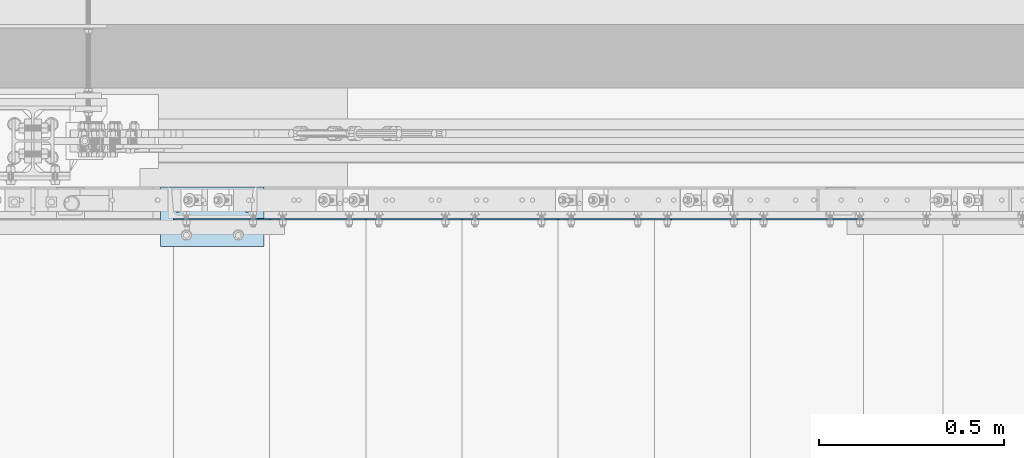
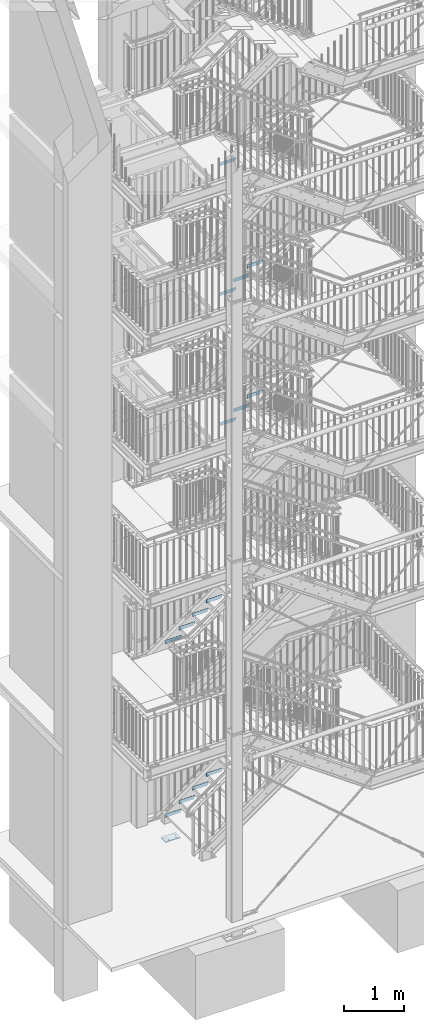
# One storey, part 195 of 831: 16 plates, 34 openings.
"""IFC2X3 building model written with IfcOpenShell, lengths in millimetres."""

from ifc_helpers import new_model, entity, si_unit, converted_unit, point, frame, frame_2d, origin, origin_with_axes, origin_2d_with_axis, place, context, project, spatial, polyline, circle_curve, line_curve, trimmed, segment, composite_curve, circle, outline, extrude, material, layer, layer_set, element, save


model = new_model("IFC2X3")

# Units and contexts
model_context = context("Model", 3, precision=1e-09, world=origin_with_axes())
ifc_project = project(units=[si_unit("LENGTHUNIT", "METRE", prefix="MILLI"), si_unit("AREAUNIT", "SQUARE_METRE"), si_unit("VOLUMEUNIT", "CUBIC_METRE"), converted_unit("PLANEANGLEUNIT", "DEGREE", entity("IfcPlaneAngleMeasure", 0.01745329), si_unit("PLANEANGLEUNIT", "RADIAN"), dimensions=[0, 0, 0, 0, 0, 0, 0])], contexts=[model_context])

# Site, building, storey
site_placement = place(None, origin_with_axes())
site = spatial("IfcSite", under=ifc_project, at=site_placement, Name="Site", CompositionType="ELEMENT")
building_placement = place(site_placement, origin_with_axes())
building = spatial("IfcBuilding", under=site, at=building_placement, Name="Struktur 1", CompositionType="ELEMENT")
storey_placement = place(building_placement, origin_with_axes())
storey = spatial("IfcBuildingStorey", under=building, at=storey_placement, Name="Default Storey", CompositionType="ELEMENT", Elevation=0.0)

# Plate, openings
ifc_material = material(Name="S235JR")
ifc_layer_1 = layer(ifc_material, 3.0)
ifc_layer_set_1 = layer_set([ifc_layer_1], Name="S235JR")
plate_1_placement = place(None, frame((6276.713402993, 7306.736971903, 10742.571429), z_axis=(0.0, -1.0, 0.0), x_axis=(0.0, 0.0, -1.0)))
plate_1 = element("IfcPlate", 1, at=plate_1_placement, inside=storey, material=ifc_layer_set_1, Name="Grate_Step#23", ObjectType="Grate_Step#23", context=model_context, shape_type="SweptSolid", body=[
    extrude(outline(polyline([(0.0, 0.0), (70.0, 0.0), (70.0, 275.0), (40.0, 305.0), (0.0, 305.0), (0.0, 0.0)])), origin_with_axes(), (0.0, 0.0, 1.0), 3.0),
])
opening_1_placement = place(plate_1_placement, frame((55.0, 215.0, 3.5), z_axis=(0.0, 0.0, -1.0), x_axis=(0.0, 1.0, 0.0)))
element("IfcOpeningElement", 2, at=opening_1_placement, cuts=plate_1, ObjectType="Opening", context=model_context, shape_type="SweptSolid", body=[
    extrude(outline(composite_curve([segment(trimmed(line_curve((-9.5, -7.001), (1.0, 0.0), 19.0), [point((-9.5, -7.001))], [point((9.5, -7.001))], True, "CARTESIAN"), True, "CONTINUOUS"), segment(trimmed(circle_curve(frame_2d((9.5, 0.0), x_axis=(1.0, 0.0)), 7.001), [point((9.5, -7.001))], [point((9.5, 7.001))], True, "CARTESIAN"), True, "CONTINUOUS"), segment(trimmed(line_curve((9.5, 7.001), (-1.0, 0.0), 19.0), [point((9.5, 7.001))], [point((-9.5, 7.001))], True, "CARTESIAN"), True, "CONTINUOUS"), segment(trimmed(circle_curve(frame_2d((-9.5, 0.0), x_axis=(1.0, 0.0)), 7.001), [point((-9.5, 7.001))], [point((-9.5, -7.001))], True, "CARTESIAN"), True, "CONTINUOUS")], self_intersect=False)), origin(), (0.0, 0.0, 1.0), 4.0),
])
opening_2_placement = place(plate_1_placement, frame((55.0, 35.0, 3.5), z_axis=(0.0, 0.0, -1.0), x_axis=(0.0, 1.0, 0.0)))
element("IfcOpeningElement", 3, at=opening_2_placement, cuts=plate_1, ObjectType="Opening", context=model_context, shape_type="SweptSolid", body=[
    extrude(circle(Radius=7.001, at=origin_2d_with_axis()), origin(), (0.0, 0.0, 1.0), 4.0),
])

plate_2_placement = place(None, frame((6536.713402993, 7306.736971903, 10930.2142861), z_axis=(0.0, -1.0, 0.0), x_axis=(0.0, 0.0, -1.0)))
plate_2 = element("IfcPlate", 4, at=plate_2_placement, inside=storey, material=ifc_layer_set_1, Name="Grate_Step#30", ObjectType="Grate_Step#30", context=model_context, shape_type="SweptSolid", body=[
    extrude(outline(polyline([(0.0, 0.0), (70.0, 0.0), (70.0, 275.0), (40.0, 305.0), (0.0, 305.0), (0.0, 0.0)])), origin_with_axes(), (0.0, 0.0, 1.0), 3.0),
])
opening_3_placement = place(plate_2_placement, frame((55.0, 35.0, 3.5), z_axis=(0.0, 0.0, -1.0), x_axis=(0.0, 1.0, 0.0)))
element("IfcOpeningElement", 5, at=opening_3_placement, cuts=plate_2, ObjectType="Opening", context=model_context, shape_type="SweptSolid", body=[
    extrude(circle(Radius=7.001, at=origin_2d_with_axis()), origin(), (0.0, 0.0, 1.0), 4.0),
])
opening_4_placement = place(plate_2_placement, frame((55.0, 215.0, 3.5), z_axis=(0.0, 0.0, -1.0), x_axis=(0.0, 1.0, 0.0)))
element("IfcOpeningElement", 6, at=opening_4_placement, cuts=plate_2, ObjectType="Opening", context=model_context, shape_type="SweptSolid", body=[
    extrude(outline(composite_curve([segment(trimmed(line_curve((-9.5, -7.001), (1.0, 0.0), 19.0), [point((-9.5, -7.001))], [point((9.5, -7.001))], True, "CARTESIAN"), True, "CONTINUOUS"), segment(trimmed(circle_curve(frame_2d((9.5, 0.0), x_axis=(1.0, 0.0)), 7.001), [point((9.5, -7.001))], [point((9.5, 7.001))], True, "CARTESIAN"), True, "CONTINUOUS"), segment(trimmed(line_curve((9.5, 7.001), (-1.0, 0.0), 19.0), [point((9.5, 7.001))], [point((-9.5, 7.001))], True, "CARTESIAN"), True, "CONTINUOUS"), segment(trimmed(circle_curve(frame_2d((-9.5, 0.0), x_axis=(1.0, 0.0)), 7.001), [point((-9.5, 7.001))], [point((-9.5, -7.001))], True, "CARTESIAN"), True, "CONTINUOUS")], self_intersect=False)), origin(), (0.0, 0.0, 1.0), 4.0),
])

plate_3_placement = place(None, frame((6796.713402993, 7306.736971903, 11117.8571432), z_axis=(0.0, -1.0, 0.0), x_axis=(0.0, 0.0, -1.0)))
plate_3 = element("IfcPlate", 7, at=plate_3_placement, inside=storey, material=ifc_layer_set_1, Name="Grate_Step#37", ObjectType="Grate_Step#37", context=model_context, shape_type="SweptSolid", body=[
    extrude(outline(polyline([(0.0, 0.0), (70.0, 0.0), (70.0, 275.0), (40.0, 305.0), (0.0, 305.0), (0.0, 0.0)])), origin_with_axes(), (0.0, 0.0, 1.0), 3.0),
])
opening_5_placement = place(plate_3_placement, frame((55.0, 215.0, 3.5), z_axis=(0.0, 0.0, -1.0), x_axis=(0.0, 1.0, 0.0)))
element("IfcOpeningElement", 8, at=opening_5_placement, cuts=plate_3, ObjectType="Opening", context=model_context, shape_type="SweptSolid", body=[
    extrude(outline(composite_curve([segment(trimmed(line_curve((-9.5, -7.001), (1.0, 0.0), 19.0), [point((-9.5, -7.001))], [point((9.5, -7.001))], True, "CARTESIAN"), True, "CONTINUOUS"), segment(trimmed(circle_curve(frame_2d((9.5, 0.0), x_axis=(1.0, 0.0)), 7.001), [point((9.5, -7.001))], [point((9.5, 7.001))], True, "CARTESIAN"), True, "CONTINUOUS"), segment(trimmed(line_curve((9.5, 7.001), (-1.0, 0.0), 19.0), [point((9.5, 7.001))], [point((-9.5, 7.001))], True, "CARTESIAN"), True, "CONTINUOUS"), segment(trimmed(circle_curve(frame_2d((-9.5, 0.0), x_axis=(1.0, 0.0)), 7.001), [point((-9.5, 7.001))], [point((-9.5, -7.001))], True, "CARTESIAN"), True, "CONTINUOUS")], self_intersect=False)), origin(), (0.0, 0.0, 1.0), 4.0),
])
opening_6_placement = place(plate_3_placement, frame((55.0, 35.0, 3.5), z_axis=(0.0, 0.0, -1.0), x_axis=(0.0, 1.0, 0.0)))
element("IfcOpeningElement", 9, at=opening_6_placement, cuts=plate_3, ObjectType="Opening", context=model_context, shape_type="SweptSolid", body=[
    extrude(circle(Radius=7.001, at=origin_2d_with_axis()), origin(), (0.0, 0.0, 1.0), 4.0),
])

plate_4_placement = place(None, frame((6276.713402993, 7306.736971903, 8112.0), z_axis=(0.0, -1.0, 0.0), x_axis=(0.0, 0.0, -1.0)))
plate_4 = element("IfcPlate", 10, at=plate_4_placement, inside=storey, material=ifc_layer_set_1, Name="Grate_Step#23", ObjectType="Grate_Step#23", context=model_context, shape_type="SweptSolid", body=[
    extrude(outline(polyline([(0.0, 0.0), (70.0, 0.0), (70.0, 275.0), (40.0, 305.0), (0.0, 305.0), (0.0, 0.0)])), origin_with_axes(), (0.0, 0.0, 1.0), 3.0),
])
opening_7_placement = place(plate_4_placement, frame((55.0, 215.0, 3.5), z_axis=(0.0, 0.0, -1.0), x_axis=(0.0, 1.0, 0.0)))
element("IfcOpeningElement", 11, at=opening_7_placement, cuts=plate_4, ObjectType="Opening", context=model_context, shape_type="SweptSolid", body=[
    extrude(outline(composite_curve([segment(trimmed(line_curve((-9.5, -7.001), (1.0, 0.0), 19.0), [point((-9.5, -7.001))], [point((9.5, -7.001))], True, "CARTESIAN"), True, "CONTINUOUS"), segment(trimmed(circle_curve(frame_2d((9.5, 0.0), x_axis=(1.0, 0.0)), 7.001), [point((9.5, -7.001))], [point((9.5, 7.001))], True, "CARTESIAN"), True, "CONTINUOUS"), segment(trimmed(line_curve((9.5, 7.001), (-1.0, 0.0), 19.0), [point((9.5, 7.001))], [point((-9.5, 7.001))], True, "CARTESIAN"), True, "CONTINUOUS"), segment(trimmed(circle_curve(frame_2d((-9.5, 0.0), x_axis=(1.0, 0.0)), 7.001), [point((-9.5, 7.001))], [point((-9.5, -7.001))], True, "CARTESIAN"), True, "CONTINUOUS")], self_intersect=False)), origin(), (0.0, 0.0, 1.0), 4.0),
])
opening_8_placement = place(plate_4_placement, frame((55.0, 35.0, 3.5), z_axis=(0.0, 0.0, -1.0), x_axis=(0.0, 1.0, 0.0)))
element("IfcOpeningElement", 12, at=opening_8_placement, cuts=plate_4, ObjectType="Opening", context=model_context, shape_type="SweptSolid", body=[
    extrude(circle(Radius=7.001, at=origin_2d_with_axis()), origin(), (0.0, 0.0, 1.0), 4.0),
])

plate_5_placement = place(None, frame((6536.713402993, 7306.736971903, 8300.0), z_axis=(0.0, -1.0, 0.0), x_axis=(0.0, 0.0, -1.0)))
plate_5 = element("IfcPlate", 13, at=plate_5_placement, inside=storey, material=ifc_layer_set_1, Name="Grate_Step#30", ObjectType="Grate_Step#30", context=model_context, shape_type="SweptSolid", body=[
    extrude(outline(polyline([(0.0, 0.0), (70.0, 0.0), (70.0, 275.0), (40.0, 305.0), (0.0, 305.0), (0.0, 0.0)])), origin_with_axes(), (0.0, 0.0, 1.0), 3.0),
])
opening_9_placement = place(plate_5_placement, frame((55.0, 35.0, 3.5), z_axis=(0.0, 0.0, -1.0), x_axis=(0.0, 1.0, 0.0)))
element("IfcOpeningElement", 14, at=opening_9_placement, cuts=plate_5, ObjectType="Opening", context=model_context, shape_type="SweptSolid", body=[
    extrude(circle(Radius=7.001, at=origin_2d_with_axis()), origin(), (0.0, 0.0, 1.0), 4.0),
])
opening_10_placement = place(plate_5_placement, frame((55.0, 215.0, 3.5), z_axis=(0.0, 0.0, -1.0), x_axis=(0.0, 1.0, 0.0)))
element("IfcOpeningElement", 15, at=opening_10_placement, cuts=plate_5, ObjectType="Opening", context=model_context, shape_type="SweptSolid", body=[
    extrude(outline(composite_curve([segment(trimmed(line_curve((-9.5, -7.001), (1.0, 0.0), 19.0), [point((-9.5, -7.001))], [point((9.5, -7.001))], True, "CARTESIAN"), True, "CONTINUOUS"), segment(trimmed(circle_curve(frame_2d((9.5, 0.0), x_axis=(1.0, 0.0)), 7.001), [point((9.5, -7.001))], [point((9.5, 7.001))], True, "CARTESIAN"), True, "CONTINUOUS"), segment(trimmed(line_curve((9.5, 7.001), (-1.0, 0.0), 19.0), [point((9.5, 7.001))], [point((-9.5, 7.001))], True, "CARTESIAN"), True, "CONTINUOUS"), segment(trimmed(circle_curve(frame_2d((-9.5, 0.0), x_axis=(1.0, 0.0)), 7.001), [point((-9.5, 7.001))], [point((-9.5, -7.001))], True, "CARTESIAN"), True, "CONTINUOUS")], self_intersect=False)), origin(), (0.0, 0.0, 1.0), 4.0),
])

plate_6_placement = place(None, frame((6796.713402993, 7306.736971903, 8488.0), z_axis=(0.0, -1.0, 0.0), x_axis=(0.0, 0.0, -1.0)))
plate_6 = element("IfcPlate", 16, at=plate_6_placement, inside=storey, material=ifc_layer_set_1, Name="Grate_Step#37", ObjectType="Grate_Step#37", context=model_context, shape_type="SweptSolid", body=[
    extrude(outline(polyline([(0.0, 0.0), (70.0, 0.0), (70.0, 275.0), (40.0, 305.0), (0.0, 305.0), (0.0, 0.0)])), origin_with_axes(), (0.0, 0.0, 1.0), 3.0),
])
opening_11_placement = place(plate_6_placement, frame((55.0, 215.0, 3.5), z_axis=(0.0, 0.0, -1.0), x_axis=(0.0, 1.0, 0.0)))
element("IfcOpeningElement", 17, at=opening_11_placement, cuts=plate_6, ObjectType="Opening", context=model_context, shape_type="SweptSolid", body=[
    extrude(outline(composite_curve([segment(trimmed(line_curve((-9.5, -7.001), (1.0, 0.0), 19.0), [point((-9.5, -7.001))], [point((9.5, -7.001))], True, "CARTESIAN"), True, "CONTINUOUS"), segment(trimmed(circle_curve(frame_2d((9.5, 0.0), x_axis=(1.0, 0.0)), 7.001), [point((9.5, -7.001))], [point((9.5, 7.001))], True, "CARTESIAN"), True, "CONTINUOUS"), segment(trimmed(line_curve((9.5, 7.001), (-1.0, 0.0), 19.0), [point((9.5, 7.001))], [point((-9.5, 7.001))], True, "CARTESIAN"), True, "CONTINUOUS"), segment(trimmed(circle_curve(frame_2d((-9.5, 0.0), x_axis=(1.0, 0.0)), 7.001), [point((-9.5, 7.001))], [point((-9.5, -7.001))], True, "CARTESIAN"), True, "CONTINUOUS")], self_intersect=False)), origin(), (0.0, 0.0, 1.0), 4.0),
])
opening_12_placement = place(plate_6_placement, frame((55.0, 35.0, 3.5), z_axis=(0.0, 0.0, -1.0), x_axis=(0.0, 1.0, 0.0)))
element("IfcOpeningElement", 18, at=opening_12_placement, cuts=plate_6, ObjectType="Opening", context=model_context, shape_type="SweptSolid", body=[
    extrude(circle(Radius=7.001, at=origin_2d_with_axis()), origin(), (0.0, 0.0, 1.0), 4.0),
])

plate_7_placement = place(None, frame((6276.713402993, 7306.736971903, 13371.857143), z_axis=(0.0, -1.0, 0.0), x_axis=(0.0, 0.0, -1.0)))
plate_7 = element("IfcPlate", 19, at=plate_7_placement, inside=storey, material=ifc_layer_set_1, Name="Grate_Step#23", ObjectType="Grate_Step#23", context=model_context, shape_type="SweptSolid", body=[
    extrude(outline(polyline([(0.0, 0.0), (70.0, 0.0), (70.0, 275.0), (40.0, 305.0), (0.0, 305.0), (0.0, 0.0)])), origin_with_axes(), (0.0, 0.0, 1.0), 3.0),
])
opening_13_placement = place(plate_7_placement, frame((55.0, 215.0, 3.5), z_axis=(0.0, 0.0, -1.0), x_axis=(0.0, 1.0, 0.0)))
element("IfcOpeningElement", 20, at=opening_13_placement, cuts=plate_7, ObjectType="Opening", context=model_context, shape_type="SweptSolid", body=[
    extrude(outline(composite_curve([segment(trimmed(line_curve((-9.5, -7.001), (1.0, 0.0), 19.0), [point((-9.5, -7.001))], [point((9.5, -7.001))], True, "CARTESIAN"), True, "CONTINUOUS"), segment(trimmed(circle_curve(frame_2d((9.5, 0.0), x_axis=(1.0, 0.0)), 7.001), [point((9.5, -7.001))], [point((9.5, 7.001))], True, "CARTESIAN"), True, "CONTINUOUS"), segment(trimmed(line_curve((9.5, 7.001), (-1.0, 0.0), 19.0), [point((9.5, 7.001))], [point((-9.5, 7.001))], True, "CARTESIAN"), True, "CONTINUOUS"), segment(trimmed(circle_curve(frame_2d((-9.5, 0.0), x_axis=(1.0, 0.0)), 7.001), [point((-9.5, 7.001))], [point((-9.5, -7.001))], True, "CARTESIAN"), True, "CONTINUOUS")], self_intersect=False)), origin(), (0.0, 0.0, 1.0), 4.0),
])
opening_14_placement = place(plate_7_placement, frame((55.0, 35.0, 3.5), z_axis=(0.0, 0.0, -1.0), x_axis=(0.0, 1.0, 0.0)))
element("IfcOpeningElement", 21, at=opening_14_placement, cuts=plate_7, ObjectType="Opening", context=model_context, shape_type="SweptSolid", body=[
    extrude(circle(Radius=7.001, at=origin_2d_with_axis()), origin(), (0.0, 0.0, 1.0), 4.0),
])

plate_8_placement = place(None, frame((5756.713402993, 7306.736971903, 925.3157888), z_axis=(0.0, -1.0, 0.0), x_axis=(0.0, 0.0, -1.0)))
plate_8 = element("IfcPlate", 22, at=plate_8_placement, inside=storey, material=ifc_layer_set_1, Name="Grate_Step#16", ObjectType="Grate_Step#16", context=model_context, shape_type="SweptSolid", body=[
    extrude(outline(polyline([(0.0, 0.0), (70.0, 0.0), (70.0, 275.0), (40.0, 305.0), (0.0, 305.0), (0.0, 0.0)])), origin_with_axes(), (0.0, 0.0, 1.0), 3.0),
])
opening_15_placement = place(plate_8_placement, frame((55.0, 35.0, 3.5), z_axis=(0.0, 0.0, -1.0), x_axis=(0.0, 1.0, 0.0)))
element("IfcOpeningElement", 23, at=opening_15_placement, cuts=plate_8, ObjectType="Opening", context=model_context, shape_type="SweptSolid", body=[
    extrude(circle(Radius=7.001, at=origin_2d_with_axis()), origin(), (0.0, 0.0, 1.0), 4.0),
])
opening_16_placement = place(plate_8_placement, frame((55.0, 215.0, 3.5), z_axis=(0.0, 0.0, -1.0), x_axis=(0.0, 1.0, 0.0)))
element("IfcOpeningElement", 24, at=opening_16_placement, cuts=plate_8, ObjectType="Opening", context=model_context, shape_type="SweptSolid", body=[
    extrude(outline(composite_curve([segment(trimmed(line_curve((-9.5, -7.001), (1.0, 0.0), 19.0), [point((-9.5, -7.001))], [point((9.5, -7.001))], True, "CARTESIAN"), True, "CONTINUOUS"), segment(trimmed(circle_curve(frame_2d((9.5, 0.0), x_axis=(1.0, 0.0)), 7.001), [point((9.5, -7.001))], [point((9.5, 7.001))], True, "CARTESIAN"), True, "CONTINUOUS"), segment(trimmed(line_curve((9.5, 7.001), (-1.0, 0.0), 19.0), [point((9.5, 7.001))], [point((-9.5, 7.001))], True, "CARTESIAN"), True, "CONTINUOUS"), segment(trimmed(circle_curve(frame_2d((-9.5, 0.0), x_axis=(1.0, 0.0)), 7.001), [point((-9.5, 7.001))], [point((-9.5, -7.001))], True, "CARTESIAN"), True, "CONTINUOUS")], self_intersect=False)), origin(), (0.0, 0.0, 1.0), 4.0),
])

plate_9_placement = place(None, frame((5496.713402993, 7306.736971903, 740.2105256), z_axis=(0.0, -1.0, 0.0), x_axis=(0.0, 0.0, -1.0)))
plate_9 = element("IfcPlate", 25, at=plate_9_placement, inside=storey, material=ifc_layer_set_1, Name="Grate_Step#9", ObjectType="Grate_Step#9", context=model_context, shape_type="SweptSolid", body=[
    extrude(outline(polyline([(0.0, 0.0), (70.0, 0.0), (70.0, 275.0), (40.0, 305.0), (0.0, 305.0), (0.0, 0.0)])), origin_with_axes(), (0.0, 0.0, 1.0), 3.0),
])
opening_17_placement = place(plate_9_placement, frame((55.0, 35.0, 3.5), z_axis=(0.0, 0.0, -1.0), x_axis=(0.0, 1.0, 0.0)))
element("IfcOpeningElement", 26, at=opening_17_placement, cuts=plate_9, ObjectType="Opening", context=model_context, shape_type="SweptSolid", body=[
    extrude(circle(Radius=7.001, at=origin_2d_with_axis()), origin(), (0.0, 0.0, 1.0), 4.0),
])
opening_18_placement = place(plate_9_placement, frame((55.0, 215.0, 3.5), z_axis=(0.0, 0.0, -1.0), x_axis=(0.0, 1.0, 0.0)))
element("IfcOpeningElement", 27, at=opening_18_placement, cuts=plate_9, ObjectType="Opening", context=model_context, shape_type="SweptSolid", body=[
    extrude(outline(composite_curve([segment(trimmed(line_curve((-9.5, -7.001), (1.0, 0.0), 19.0), [point((-9.5, -7.001))], [point((9.5, -7.001))], True, "CARTESIAN"), True, "CONTINUOUS"), segment(trimmed(circle_curve(frame_2d((9.5, 0.0), x_axis=(1.0, 0.0)), 7.001), [point((9.5, -7.001))], [point((9.5, 7.001))], True, "CARTESIAN"), True, "CONTINUOUS"), segment(trimmed(line_curve((9.5, 7.001), (-1.0, 0.0), 19.0), [point((9.5, 7.001))], [point((-9.5, 7.001))], True, "CARTESIAN"), True, "CONTINUOUS"), segment(trimmed(circle_curve(frame_2d((-9.5, 0.0), x_axis=(1.0, 0.0)), 7.001), [point((-9.5, 7.001))], [point((-9.5, -7.001))], True, "CARTESIAN"), True, "CONTINUOUS")], self_intersect=False)), origin(), (0.0, 0.0, 1.0), 4.0),
])

plate_10_placement = place(None, frame((5496.713402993, 7306.736971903, 4252.5789471), z_axis=(0.0, -1.0, 0.0), x_axis=(0.0, 0.0, -1.0)))
plate_10 = element("IfcPlate", 28, at=plate_10_placement, inside=storey, material=ifc_layer_set_1, Name="Grate_Step#9", ObjectType="Grate_Step#9", context=model_context, shape_type="SweptSolid", body=[
    extrude(outline(polyline([(0.0, 0.0), (70.0, 0.0), (70.0, 275.0), (40.0, 305.0), (0.0, 305.0), (0.0, 0.0)])), origin_with_axes(), (0.0, 0.0, 1.0), 3.0),
])
opening_19_placement = place(plate_10_placement, frame((55.0, 35.0, 3.5), z_axis=(0.0, 0.0, -1.0), x_axis=(0.0, 1.0, 0.0)))
element("IfcOpeningElement", 29, at=opening_19_placement, cuts=plate_10, ObjectType="Opening", context=model_context, shape_type="SweptSolid", body=[
    extrude(circle(Radius=7.001, at=origin_2d_with_axis()), origin(), (0.0, 0.0, 1.0), 4.0),
])
opening_20_placement = place(plate_10_placement, frame((55.0, 215.0, 3.5), z_axis=(0.0, 0.0, -1.0), x_axis=(0.0, 1.0, 0.0)))
element("IfcOpeningElement", 30, at=opening_20_placement, cuts=plate_10, ObjectType="Opening", context=model_context, shape_type="SweptSolid", body=[
    extrude(outline(composite_curve([segment(trimmed(line_curve((-9.5, -7.001), (1.0, 0.0), 19.0), [point((-9.5, -7.001))], [point((9.5, -7.001))], True, "CARTESIAN"), True, "CONTINUOUS"), segment(trimmed(circle_curve(frame_2d((9.5, 0.0), x_axis=(1.0, 0.0)), 7.001), [point((9.5, -7.001))], [point((9.5, 7.001))], True, "CARTESIAN"), True, "CONTINUOUS"), segment(trimmed(line_curve((9.5, 7.001), (-1.0, 0.0), 19.0), [point((9.5, 7.001))], [point((-9.5, 7.001))], True, "CARTESIAN"), True, "CONTINUOUS"), segment(trimmed(circle_curve(frame_2d((-9.5, 0.0), x_axis=(1.0, 0.0)), 7.001), [point((-9.5, 7.001))], [point((-9.5, -7.001))], True, "CARTESIAN"), True, "CONTINUOUS")], self_intersect=False)), origin(), (0.0, 0.0, 1.0), 4.0),
])

plate_11_placement = place(None, frame((6016.713402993, 7306.736971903, 4618.1578945), z_axis=(0.0, -1.0, 0.0), x_axis=(0.0, 0.0, -1.0)))
plate_11 = element("IfcPlate", 31, at=plate_11_placement, inside=storey, material=ifc_layer_set_1, Name="Grate_Step#23", ObjectType="Grate_Step#23", context=model_context, shape_type="SweptSolid", body=[
    extrude(outline(polyline([(0.0, 0.0), (70.0, 0.0), (70.0, 275.0), (40.0, 305.0), (0.0, 305.0), (0.0, 0.0)])), origin_with_axes(), (0.0, 0.0, 1.0), 3.0),
])
opening_21_placement = place(plate_11_placement, frame((55.0, 215.0, 3.5), z_axis=(0.0, 0.0, -1.0), x_axis=(0.0, 1.0, 0.0)))
element("IfcOpeningElement", 32, at=opening_21_placement, cuts=plate_11, ObjectType="Opening", context=model_context, shape_type="SweptSolid", body=[
    extrude(outline(composite_curve([segment(trimmed(line_curve((-9.5, -7.001), (1.0, 0.0), 19.0), [point((-9.5, -7.001))], [point((9.5, -7.001))], True, "CARTESIAN"), True, "CONTINUOUS"), segment(trimmed(circle_curve(frame_2d((9.5, 0.0), x_axis=(1.0, 0.0)), 7.001), [point((9.5, -7.001))], [point((9.5, 7.001))], True, "CARTESIAN"), True, "CONTINUOUS"), segment(trimmed(line_curve((9.5, 7.001), (-1.0, 0.0), 19.0), [point((9.5, 7.001))], [point((-9.5, 7.001))], True, "CARTESIAN"), True, "CONTINUOUS"), segment(trimmed(circle_curve(frame_2d((-9.5, 0.0), x_axis=(1.0, 0.0)), 7.001), [point((-9.5, 7.001))], [point((-9.5, -7.001))], True, "CARTESIAN"), True, "CONTINUOUS")], self_intersect=False)), origin(), (0.0, 0.0, 1.0), 4.0),
])
opening_22_placement = place(plate_11_placement, frame((55.0, 35.0, 3.5), z_axis=(0.0, 0.0, -1.0), x_axis=(0.0, 1.0, 0.0)))
element("IfcOpeningElement", 33, at=opening_22_placement, cuts=plate_11, ObjectType="Opening", context=model_context, shape_type="SweptSolid", body=[
    extrude(circle(Radius=7.001, at=origin_2d_with_axis()), origin(), (0.0, 0.0, 1.0), 4.0),
])

plate_12_placement = place(None, frame((5236.713402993, 7306.736971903, 4069.7894734), z_axis=(0.0, -1.0, 0.0), x_axis=(0.0, 0.0, -1.0)))
plate_12 = element("IfcPlate", 34, at=plate_12_placement, inside=storey, material=ifc_layer_set_1, Name="Grate_Step#2", ObjectType="Grate_Step#2", context=model_context, shape_type="SweptSolid", body=[
    extrude(outline(polyline([(0.0, 0.0), (70.0, 0.0), (70.0, 275.0), (40.0, 305.0), (0.0, 305.0), (0.0, 0.0)])), origin_with_axes(), (0.0, 0.0, 1.0), 3.0),
])
opening_23_placement = place(plate_12_placement, frame((55.0, 215.0, 3.5), z_axis=(0.0, 0.0, -1.0), x_axis=(0.0, 1.0, 0.0)))
element("IfcOpeningElement", 35, at=opening_23_placement, cuts=plate_12, ObjectType="Opening", context=model_context, shape_type="SweptSolid", body=[
    extrude(outline(composite_curve([segment(trimmed(line_curve((-9.5, -7.001), (1.0, 0.0), 19.0), [point((-9.5, -7.001))], [point((9.5, -7.001))], True, "CARTESIAN"), True, "CONTINUOUS"), segment(trimmed(circle_curve(frame_2d((9.5, 0.0), x_axis=(1.0, 0.0)), 7.001), [point((9.5, -7.001))], [point((9.5, 7.001))], True, "CARTESIAN"), True, "CONTINUOUS"), segment(trimmed(line_curve((9.5, 7.001), (-1.0, 0.0), 19.0), [point((9.5, 7.001))], [point((-9.5, 7.001))], True, "CARTESIAN"), True, "CONTINUOUS"), segment(trimmed(circle_curve(frame_2d((-9.5, 0.0), x_axis=(1.0, 0.0)), 7.001), [point((-9.5, 7.001))], [point((-9.5, -7.001))], True, "CARTESIAN"), True, "CONTINUOUS")], self_intersect=False)), origin(), (0.0, 0.0, 1.0), 4.0),
])
opening_24_placement = place(plate_12_placement, frame((55.0, 35.0, 3.5), z_axis=(0.0, 0.0, -1.0), x_axis=(0.0, 1.0, 0.0)))
element("IfcOpeningElement", 36, at=opening_24_placement, cuts=plate_12, ObjectType="Opening", context=model_context, shape_type="SweptSolid", body=[
    extrude(circle(Radius=7.001, at=origin_2d_with_axis()), origin(), (0.0, 0.0, 1.0), 4.0),
])

plate_13_placement = place(None, frame((6016.713402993, 7306.736971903, 1110.421052), z_axis=(0.0, -1.0, 0.0), x_axis=(0.0, 0.0, -1.0)))
plate_13 = element("IfcPlate", 37, at=plate_13_placement, inside=storey, material=ifc_layer_set_1, Name="Grate_Step#23", ObjectType="Grate_Step#23", context=model_context, shape_type="SweptSolid", body=[
    extrude(outline(polyline([(0.0, 0.0), (70.0, 0.0), (70.0, 275.0), (40.0, 305.0), (0.0, 305.0), (0.0, 0.0)])), origin_with_axes(), (0.0, 0.0, 1.0), 3.0),
])
opening_25_placement = place(plate_13_placement, frame((55.0, 215.0, 3.5), z_axis=(0.0, 0.0, -1.0), x_axis=(0.0, 1.0, 0.0)))
element("IfcOpeningElement", 38, at=opening_25_placement, cuts=plate_13, ObjectType="Opening", context=model_context, shape_type="SweptSolid", body=[
    extrude(outline(composite_curve([segment(trimmed(line_curve((-9.5, -7.001), (1.0, 0.0), 19.0), [point((-9.5, -7.001))], [point((9.5, -7.001))], True, "CARTESIAN"), True, "CONTINUOUS"), segment(trimmed(circle_curve(frame_2d((9.5, 0.0), x_axis=(1.0, 0.0)), 7.001), [point((9.5, -7.001))], [point((9.5, 7.001))], True, "CARTESIAN"), True, "CONTINUOUS"), segment(trimmed(line_curve((9.5, 7.001), (-1.0, 0.0), 19.0), [point((9.5, 7.001))], [point((-9.5, 7.001))], True, "CARTESIAN"), True, "CONTINUOUS"), segment(trimmed(circle_curve(frame_2d((-9.5, 0.0), x_axis=(1.0, 0.0)), 7.001), [point((-9.5, 7.001))], [point((-9.5, -7.001))], True, "CARTESIAN"), True, "CONTINUOUS")], self_intersect=False)), origin(), (0.0, 0.0, 1.0), 4.0),
])
opening_26_placement = place(plate_13_placement, frame((55.0, 35.0, 3.5), z_axis=(0.0, 0.0, -1.0), x_axis=(0.0, 1.0, 0.0)))
element("IfcOpeningElement", 39, at=opening_26_placement, cuts=plate_13, ObjectType="Opening", context=model_context, shape_type="SweptSolid", body=[
    extrude(circle(Radius=7.001, at=origin_2d_with_axis()), origin(), (0.0, 0.0, 1.0), 4.0),
])

plate_14_placement = place(None, frame((5236.713402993, 7306.736971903, 555.1052624), z_axis=(0.0, -1.0, 0.0), x_axis=(0.0, 0.0, -1.0)))
plate_14 = element("IfcPlate", 40, at=plate_14_placement, inside=storey, material=ifc_layer_set_1, Name="Grate_Step#2", ObjectType="Grate_Step#2", context=model_context, shape_type="SweptSolid", body=[
    extrude(outline(polyline([(0.0, 0.0), (70.0, 0.0), (70.0, 275.0), (40.0, 305.0), (0.0, 305.0), (0.0, 0.0)])), origin_with_axes(), (0.0, 0.0, 1.0), 3.0),
])
opening_27_placement = place(plate_14_placement, frame((55.0, 215.0, 3.5), z_axis=(0.0, 0.0, -1.0), x_axis=(0.0, 1.0, 0.0)))
element("IfcOpeningElement", 41, at=opening_27_placement, cuts=plate_14, ObjectType="Opening", context=model_context, shape_type="SweptSolid", body=[
    extrude(outline(composite_curve([segment(trimmed(line_curve((-9.5, -7.001), (1.0, 0.0), 19.0), [point((-9.5, -7.001))], [point((9.5, -7.001))], True, "CARTESIAN"), True, "CONTINUOUS"), segment(trimmed(circle_curve(frame_2d((9.5, 0.0), x_axis=(1.0, 0.0)), 7.001), [point((9.5, -7.001))], [point((9.5, 7.001))], True, "CARTESIAN"), True, "CONTINUOUS"), segment(trimmed(line_curve((9.5, 7.001), (-1.0, 0.0), 19.0), [point((9.5, 7.001))], [point((-9.5, 7.001))], True, "CARTESIAN"), True, "CONTINUOUS"), segment(trimmed(circle_curve(frame_2d((-9.5, 0.0), x_axis=(1.0, 0.0)), 7.001), [point((-9.5, 7.001))], [point((-9.5, -7.001))], True, "CARTESIAN"), True, "CONTINUOUS")], self_intersect=False)), origin(), (0.0, 0.0, 1.0), 4.0),
])
opening_28_placement = place(plate_14_placement, frame((55.0, 35.0, 3.5), z_axis=(0.0, 0.0, -1.0), x_axis=(0.0, 1.0, 0.0)))
element("IfcOpeningElement", 42, at=opening_28_placement, cuts=plate_14, ObjectType="Opening", context=model_context, shape_type="SweptSolid", body=[
    extrude(circle(Radius=7.001, at=origin_2d_with_axis()), origin(), (0.0, 0.0, 1.0), 4.0),
])

plate_15_placement = place(None, frame((5756.713402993, 7306.736971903, 4435.3684208), z_axis=(0.0, -1.0, 0.0), x_axis=(0.0, 0.0, -1.0)))
plate_15 = element("IfcPlate", 43, at=plate_15_placement, inside=storey, material=ifc_layer_set_1, Name="Grate_Step#16", ObjectType="Grate_Step#16", context=model_context, shape_type="SweptSolid", body=[
    extrude(outline(polyline([(0.0, 0.0), (70.0, 0.0), (70.0, 275.0), (40.0, 305.0), (0.0, 305.0), (0.0, 0.0)])), origin_with_axes(), (0.0, 0.0, 1.0), 3.0),
])
opening_29_placement = place(plate_15_placement, frame((55.0, 215.0, 3.5), z_axis=(0.0, 0.0, -1.0), x_axis=(0.0, 1.0, 0.0)))
element("IfcOpeningElement", 44, at=opening_29_placement, cuts=plate_15, ObjectType="Opening", context=model_context, shape_type="SweptSolid", body=[
    extrude(outline(composite_curve([segment(trimmed(line_curve((-9.5, -7.001), (1.0, 0.0), 19.0), [point((-9.5, -7.001))], [point((9.5, -7.001))], True, "CARTESIAN"), True, "CONTINUOUS"), segment(trimmed(circle_curve(frame_2d((9.5, 0.0), x_axis=(1.0, 0.0)), 7.001), [point((9.5, -7.001))], [point((9.5, 7.001))], True, "CARTESIAN"), True, "CONTINUOUS"), segment(trimmed(line_curve((9.5, 7.001), (-1.0, 0.0), 19.0), [point((9.5, 7.001))], [point((-9.5, 7.001))], True, "CARTESIAN"), True, "CONTINUOUS"), segment(trimmed(circle_curve(frame_2d((-9.5, 0.0), x_axis=(1.0, 0.0)), 7.001), [point((-9.5, 7.001))], [point((-9.5, -7.001))], True, "CARTESIAN"), True, "CONTINUOUS")], self_intersect=False)), origin(), (0.0, 0.0, 1.0), 4.0),
])
opening_30_placement = place(plate_15_placement, frame((55.0, 35.0, 3.5), z_axis=(0.0, 0.0, -1.0), x_axis=(0.0, 1.0, 0.0)))
element("IfcOpeningElement", 45, at=opening_30_placement, cuts=plate_15, ObjectType="Opening", context=model_context, shape_type="SweptSolid", body=[
    extrude(circle(Radius=7.001, at=origin_2d_with_axis()), origin(), (0.0, 0.0, 1.0), 4.0),
])

ifc_layer_2 = layer(ifc_material, 20.0)
ifc_layer_set_2 = layer_set([ifc_layer_2], Name="S235JR")
plate_16_placement = place(None, frame((5201.713402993, 7231.736971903, 50.0), z_axis=(0.0, 0.0, -1.0), x_axis=(0.0, 1.0, 0.0)))
plate_16 = element("IfcPlate", 46, at=plate_16_placement, inside=storey, material=ifc_layer_set_2, Name="Baseplate", ObjectType="Baseplate", context=model_context, shape_type="SweptSolid", body=[
    extrude(outline(polyline([(0.0, 0.0), (160.0, 0.0), (160.0, 280.0), (0.0, 280.0), (0.0, 0.0)])), origin_with_axes(), (0.0, 0.0, 1.0), 20.0),
])
opening_31_placement = place(plate_16_placement, frame((30.0, 140.0, 20.5), z_axis=(0.0, 0.0, -1.0), x_axis=(1.0, 0.0, 0.0)))
element("IfcOpeningElement", 47, at=opening_31_placement, cuts=plate_16, ObjectType="Opening", context=model_context, shape_type="SweptSolid", body=[
    extrude(circle(Radius=10.001, at=frame_2d((0.0, 70.0), x_axis=(1.0, 0.0))), origin(), (0.0, 0.0, 1.0), 21.0),
])
opening_32_placement = place(plate_16_placement, frame((30.0, 140.0, 20.5), z_axis=(0.0, 0.0, -1.0), x_axis=(1.0, 0.0, 0.0)))
element("IfcOpeningElement", 48, at=opening_32_placement, cuts=plate_16, ObjectType="Opening", context=model_context, shape_type="SweptSolid", body=[
    extrude(circle(Radius=10.001, at=frame_2d((0.0, -70.0), x_axis=(1.0, 0.0))), origin(), (0.0, 0.0, 1.0), 21.0),
])
opening_33_placement = place(plate_16_placement, frame((97.5, 234.0, 20.5), z_axis=(0.0, 0.0, -1.0), x_axis=(0.0, 1.0, 0.0)))
element("IfcOpeningElement", 49, at=opening_33_placement, cuts=plate_16, ObjectType="Opening", context=model_context, shape_type="SweptSolid", body=[
    extrude(circle(Radius=6.001, at=origin_2d_with_axis()), origin(), (0.0, 0.0, 1.0), 21.0),
])
opening_34_placement = place(plate_16_placement, frame((97.5, 46.0, 20.5), z_axis=(0.0, 0.0, -1.0), x_axis=(0.0, 1.0, 0.0)))
element("IfcOpeningElement", 50, at=opening_34_placement, cuts=plate_16, ObjectType="Opening", context=model_context, shape_type="SweptSolid", body=[
    extrude(circle(Radius=6.001, at=origin_2d_with_axis()), origin(), (0.0, 0.0, 1.0), 21.0),
])

save(model, "model.ifc")
